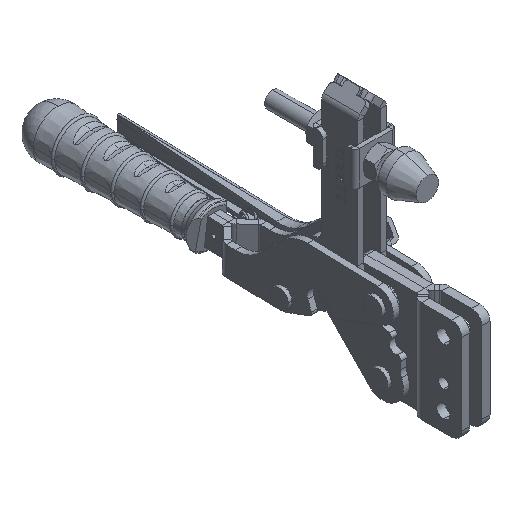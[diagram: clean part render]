
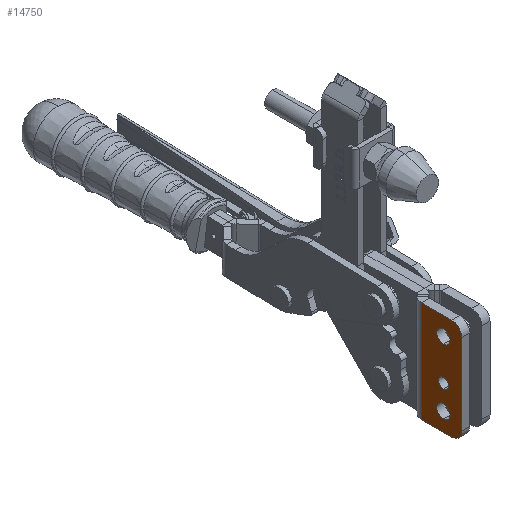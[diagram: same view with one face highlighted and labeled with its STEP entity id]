
A CAD part, isometric view. The second image highlights one B-rep face of the part: STEP entity #14750.
In plain terms, the highlighted planar face has unit normal (-1, 0, 0) as drawn and (1, 0, 0) by its records, which use the part's own axes.
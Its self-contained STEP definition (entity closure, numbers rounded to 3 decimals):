
#401 = EDGE_CURVE ( 'NONE', #13950, #35319, #28993, .T. ) ;
#898 = DIRECTION ( 'NONE',  ( 1., 0., 0. ) ) ;
#2865 = DIRECTION ( 'NONE',  ( 0., 0., 1. ) ) ;
#2892 = CARTESIAN_POINT ( 'NONE',  ( 3., -32.841, -8.75 ) ) ;
#3108 = DIRECTION ( 'NONE',  ( -1., 0., 0. ) ) ;
#3816 = VERTEX_POINT ( 'NONE', #28824 ) ;
#3980 = FACE_BOUND ( 'NONE', #40434, .T. ) ;
#4654 = CIRCLE ( 'NONE', #47459, 2.5 ) ;
#5092 = DIRECTION ( 'NONE',  ( 0., 0., 1. ) ) ;
#6125 = DIRECTION ( 'NONE',  ( 0., 0., 1. ) ) ;
#7048 = CARTESIAN_POINT ( 'NONE',  ( 3., -38.825, 36.25 ) ) ;
#7486 = EDGE_CURVE ( 'NONE', #35319, #13950, #33405, .T. ) ;
#7876 = FACE_BOUND ( 'NONE', #16024, .T. ) ;
#8159 = DIRECTION ( 'NONE',  ( 0., 0., 1. ) ) ;
#8199 = CARTESIAN_POINT ( 'NONE',  ( 3., -33.825, 36.25 ) ) ;
#8664 = DIRECTION ( 'NONE',  ( -1., 0., 0. ) ) ;
#9231 = EDGE_CURVE ( 'NONE', #22305, #44702, #28416, .T. ) ;
#9309 = EDGE_CURVE ( 'NONE', #21114, #28596, #10620, .T. ) ;
#9465 = CARTESIAN_POINT ( 'NONE',  ( 3., -18.977, -8.75 ) ) ;
#9481 = DIRECTION ( 'NONE',  ( -1., 0., 0. ) ) ;
#10620 = LINE ( 'NONE', #2892, #44972 ) ;
#11458 = VECTOR ( 'NONE', #39691, 1000. ) ;
#11618 = AXIS2_PLACEMENT_3D ( 'NONE', #39843, #898, #23630 ) ;
#11812 = DIRECTION ( 'NONE',  ( 0., 0., 1. ) ) ;
#12267 = EDGE_CURVE ( 'NONE', #3816, #41480, #31937, .T. ) ;
#12403 = DIRECTION ( 'NONE',  ( 0., 0., -1. ) ) ;
#12850 = CARTESIAN_POINT ( 'NONE',  ( 3., -38.825, -3.75 ) ) ;
#12901 = LINE ( 'NONE', #47967, #37947 ) ;
#13282 = CARTESIAN_POINT ( 'NONE',  ( 3., -29.825, -3. ) ) ;
#13950 = VERTEX_POINT ( 'NONE', #47049 ) ;
#14412 = EDGE_CURVE ( 'NONE', #44702, #22305, #41228, .T. ) ;
#14750 = ADVANCED_FACE ( 'NONE', ( #27967, #3980, #7876, #43730 ), #19490, .T. ) ;
#15942 = ORIENTED_EDGE ( 'NONE', *, *, #14412, .T. ) ;
#16024 = EDGE_LOOP ( 'NONE', ( #45272, #36342 ) ) ;
#16081 = ORIENTED_EDGE ( 'NONE', *, *, #16823, .F. ) ;
#16823 = EDGE_CURVE ( 'NONE', #27413, #28847, #34456, .T. ) ;
#17123 = CARTESIAN_POINT ( 'NONE',  ( 3., -33.825, -8.75 ) ) ;
#17670 = EDGE_CURVE ( 'NONE', #35315, #30552, #41541, .T. ) ;
#17746 = EDGE_LOOP ( 'NONE', ( #44896, #15942 ) ) ;
#18061 = ORIENTED_EDGE ( 'NONE', *, *, #19648, .F. ) ;
#19395 = CIRCLE ( 'NONE', #37521, 5. ) ;
#19490 = PLANE ( 'NONE',  #11618 ) ;
#19648 = EDGE_CURVE ( 'NONE', #28847, #3816, #22163, .T. ) ;
#21114 = VERTEX_POINT ( 'NONE', #9465 ) ;
#21228 = CARTESIAN_POINT ( 'NONE',  ( 3., -29.825, 0.25 ) ) ;
#21356 = CARTESIAN_POINT ( 'NONE',  ( 3., -29.825, 3.5 ) ) ;
#22163 = CIRCLE ( 'NONE', #50933, 5. ) ;
#22305 = VERTEX_POINT ( 'NONE', #21356 ) ;
#22509 = CARTESIAN_POINT ( 'NONE',  ( 3., -29.825, 0.25 ) ) ;
#22519 = CARTESIAN_POINT ( 'NONE',  ( 3., -29.825, 32.25 ) ) ;
#23155 = CARTESIAN_POINT ( 'NONE',  ( 3., -29.825, 32.25 ) ) ;
#23630 = DIRECTION ( 'NONE',  ( 0., 0., 1. ) ) ;
#24427 = CARTESIAN_POINT ( 'NONE',  ( 3., -29.825, 29. ) ) ;
#25220 = DIRECTION ( 'NONE',  ( -1., 0., 0. ) ) ;
#25814 = ORIENTED_EDGE ( 'NONE', *, *, #27020, .F. ) ;
#25907 = AXIS2_PLACEMENT_3D ( 'NONE', #35738, #8664, #8159 ) ;
#27020 = EDGE_CURVE ( 'NONE', #41480, #21114, #12901, .T. ) ;
#27413 = VERTEX_POINT ( 'NONE', #12850 ) ;
#27967 = FACE_BOUND ( 'NONE', #17746, .T. ) ;
#28416 = CIRCLE ( 'NONE', #30919, 3.25 ) ;
#28596 = VERTEX_POINT ( 'NONE', #17123 ) ;
#28824 = CARTESIAN_POINT ( 'NONE',  ( 3., -33.825, 41.25 ) ) ;
#28847 = VERTEX_POINT ( 'NONE', #7048 ) ;
#28993 = CIRCLE ( 'NONE', #46326, 3.25 ) ;
#29447 = DIRECTION ( 'NONE',  ( -1., 0., 0. ) ) ;
#29691 = AXIS2_PLACEMENT_3D ( 'NONE', #22509, #3108, #2865 ) ;
#30552 = VERTEX_POINT ( 'NONE', #43795 ) ;
#30919 = AXIS2_PLACEMENT_3D ( 'NONE', #21228, #29447, #48539 ) ;
#30931 = AXIS2_PLACEMENT_3D ( 'NONE', #22519, #45697, #11812 ) ;
#31652 = DIRECTION ( 'NONE',  ( -1., 0., 0. ) ) ;
#31937 = LINE ( 'NONE', #35286, #11458 ) ;
#33232 = ORIENTED_EDGE ( 'NONE', *, *, #12267, .F. ) ;
#33405 = CIRCLE ( 'NONE', #30931, 3.25 ) ;
#33549 = CARTESIAN_POINT ( 'NONE',  ( 3., -18.977, 41.25 ) ) ;
#33897 = ORIENTED_EDGE ( 'NONE', *, *, #401, .T. ) ;
#34456 = LINE ( 'NONE', #50205, #44045 ) ;
#35286 = CARTESIAN_POINT ( 'NONE',  ( 3., 3.984, 41.25 ) ) ;
#35315 = VERTEX_POINT ( 'NONE', #39136 ) ;
#35319 = VERTEX_POINT ( 'NONE', #24427 ) ;
#35463 = DIRECTION ( 'NONE',  ( 0., 0., 1. ) ) ;
#35738 = CARTESIAN_POINT ( 'NONE',  ( 3., -29.825, 20.25 ) ) ;
#36342 = ORIENTED_EDGE ( 'NONE', *, *, #46084, .T. ) ;
#37521 = AXIS2_PLACEMENT_3D ( 'NONE', #49181, #25220, #5092 ) ;
#37778 = ORIENTED_EDGE ( 'NONE', *, *, #9309, .F. ) ;
#37947 = VECTOR ( 'NONE', #12403, 1000. ) ;
#39136 = CARTESIAN_POINT ( 'NONE',  ( 3., -29.825, 22.75 ) ) ;
#39691 = DIRECTION ( 'NONE',  ( 0., 1., 0. ) ) ;
#39843 = CARTESIAN_POINT ( 'NONE',  ( 3., -32.841, 36.25 ) ) ;
#40183 = DIRECTION ( 'NONE',  ( 0., 0., 1. ) ) ;
#40434 = EDGE_LOOP ( 'NONE', ( #33897, #48242 ) ) ;
#40444 = CARTESIAN_POINT ( 'NONE',  ( 3., -29.825, 20.25 ) ) ;
#41228 = CIRCLE ( 'NONE', #29691, 3.25 ) ;
#41480 = VERTEX_POINT ( 'NONE', #33549 ) ;
#41541 = CIRCLE ( 'NONE', #25907, 2.5 ) ;
#42091 = DIRECTION ( 'NONE',  ( 0., -1., 0. ) ) ;
#43234 = DIRECTION ( 'NONE',  ( -1., 0., 0. ) ) ;
#43283 = EDGE_CURVE ( 'NONE', #28596, #27413, #19395, .T. ) ;
#43730 = FACE_OUTER_BOUND ( 'NONE', #49276, .T. ) ;
#43795 = CARTESIAN_POINT ( 'NONE',  ( 3., -29.825, 17.75 ) ) ;
#44045 = VECTOR ( 'NONE', #6125, 1000. ) ;
#44702 = VERTEX_POINT ( 'NONE', #13282 ) ;
#44896 = ORIENTED_EDGE ( 'NONE', *, *, #9231, .T. ) ;
#44972 = VECTOR ( 'NONE', #42091, 1000. ) ;
#45272 = ORIENTED_EDGE ( 'NONE', *, *, #17670, .T. ) ;
#45697 = DIRECTION ( 'NONE',  ( -1., 0., 0. ) ) ;
#46084 = EDGE_CURVE ( 'NONE', #30552, #35315, #4654, .T. ) ;
#46326 = AXIS2_PLACEMENT_3D ( 'NONE', #23155, #43234, #35463 ) ;
#47049 = CARTESIAN_POINT ( 'NONE',  ( 3., -29.825, 35.5 ) ) ;
#47384 = DIRECTION ( 'NONE',  ( 0., 0., 1. ) ) ;
#47459 = AXIS2_PLACEMENT_3D ( 'NONE', #40444, #9481, #40183 ) ;
#47967 = CARTESIAN_POINT ( 'NONE',  ( 3., -18.977, 36.25 ) ) ;
#48073 = ORIENTED_EDGE ( 'NONE', *, *, #43283, .F. ) ;
#48242 = ORIENTED_EDGE ( 'NONE', *, *, #7486, .T. ) ;
#48539 = DIRECTION ( 'NONE',  ( 0., 0., 1. ) ) ;
#49181 = CARTESIAN_POINT ( 'NONE',  ( 3., -33.825, -3.75 ) ) ;
#49276 = EDGE_LOOP ( 'NONE', ( #33232, #18061, #16081, #48073, #37778, #25814 ) ) ;
#50205 = CARTESIAN_POINT ( 'NONE',  ( 3., -38.825, 36.25 ) ) ;
#50933 = AXIS2_PLACEMENT_3D ( 'NONE', #8199, #31652, #47384 ) ;
